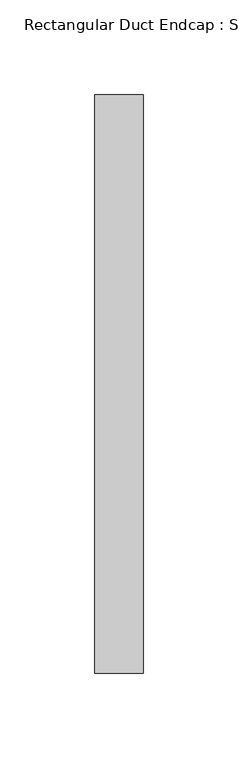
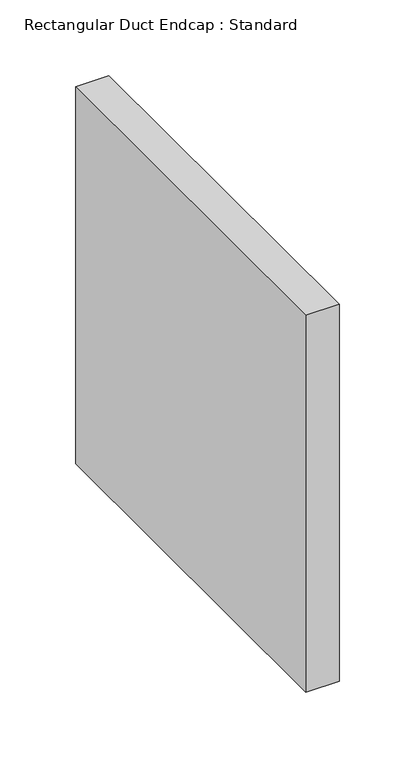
"""IFC4 building model written with IfcOpenShell, lengths in millimetres: duct fitting geometry, Rectangular Duct Endcap : Standard."""

from ifc_helpers import new_model, si_unit, frame, origin, place, context, project, spatial, polyline, outline, extrude, source, transform, mapped, element, save


def rectangular_duct_endcap_standard_037dc688(model_context):
    return source(origin(), model_context, "Body", "SweptSolid", [
        extrude(outline(polyline([(0.0, -152.4), (0.0, 152.4), (25.4, 152.4), (25.4, -152.4), (0.0, -152.4)])), frame((0.0, 0.0, -152.4), z_axis=(0.0, 0.0, 1.0), x_axis=(1.0, 0.0, 0.0)), (0.0, 0.0, 1.0), 304.8),
        extrude(outline(polyline([(0.0, -152.4), (0.0, 152.4), (25.4, 152.4), (25.4, -152.4), (0.0, -152.4)])), frame((0.0, 0.0, -152.4), z_axis=(0.0, 0.0, 1.0), x_axis=(1.0, 0.0, 0.0)), (0.0, 0.0, 1.0), 304.8),
        extrude(outline(polyline([(0.0, -152.4), (0.0, 152.4), (25.4, 152.4), (25.4, -152.4), (0.0, -152.4)])), frame((0.0, 0.0, -152.4), z_axis=(0.0, 0.0, 1.0), x_axis=(1.0, 0.0, 0.0)), (0.0, 0.0, 1.0), 304.8),
    ])


if __name__ == "__main__":
    model = new_model("IFC4")
    model_context = context("Model", 3, world=origin())
    ifc_project = project(units=[si_unit("LENGTHUNIT", "METRE", prefix="MILLI")], contexts=[model_context])
    site = spatial("IfcSite", under=ifc_project)
    building = spatial("IfcBuilding", under=site)
    placement = place(None, origin())
    rectangular_duct_endcap_standard_shape = rectangular_duct_endcap_standard_037dc688(model_context)
    element("IfcDuctFitting", 1, ObjectType="Rectangular Duct Endcap : Standard", at=placement, inside=building, context=model_context, shape_type="MappedRepresentation", body=[
        mapped(rectangular_duct_endcap_standard_shape, transform((0.0, 0.0, 0.0), x_axis=(1.0, 0.0, 0.0), y_axis=(0.0, 1.0, 0.0), z_axis=(0.0, 0.0, 1.0))),
    ])
    save(model, "model.ifc")
